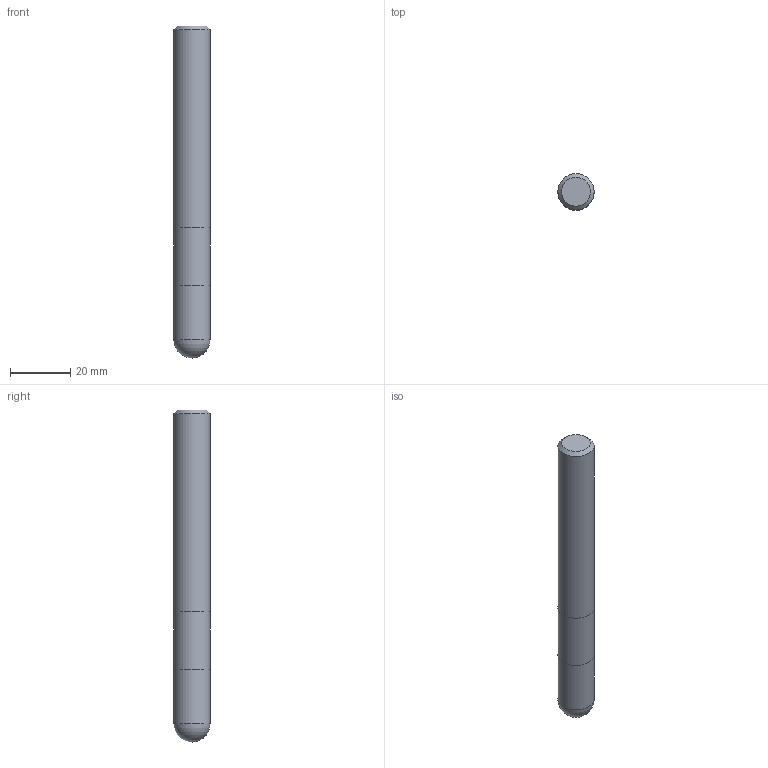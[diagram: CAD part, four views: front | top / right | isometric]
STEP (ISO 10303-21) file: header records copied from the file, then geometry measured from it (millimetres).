
FILE_DESCRIPTION((''),'2;1');
FILE_NAME('C:\Users\nsx150\AppData\Local\Temp\Mastercam 2021\EUJSUNXURU\TEMP.step','2021-04-22T10:23:14',(''),(''),'STEP Write','Mastercam 2021 ... CNC Software, Inc.','');
FILE_SCHEMA(('AUTOMOTIVE_DESIGN'));
Length unit declared in the file: millimetre
Products named in the file (1): None
Bounding box: 12 x 12 x 110 mm (x, y, z)
Volume: 12189.2 mm3; surface area: 4457.8 mm2
Topology: 2 solids, 2 shells, 8 faces, 12 edges, 7 vertices
Faces by surface type: plane 3, cylinder 3, sphere 1, cone 1
Full cylindrical faces by diameter (mm): 12 x3
Entity records: 190 total; most frequent: DIRECTION 32, CARTESIAN_POINT 22, AXIS2_PLACEMENT_3D 16, ORIENTED_EDGE 12, EDGE_LOOP 12, STYLED_ITEM 11, ADVANCED_FACE 8, FACE_BOUND 7
